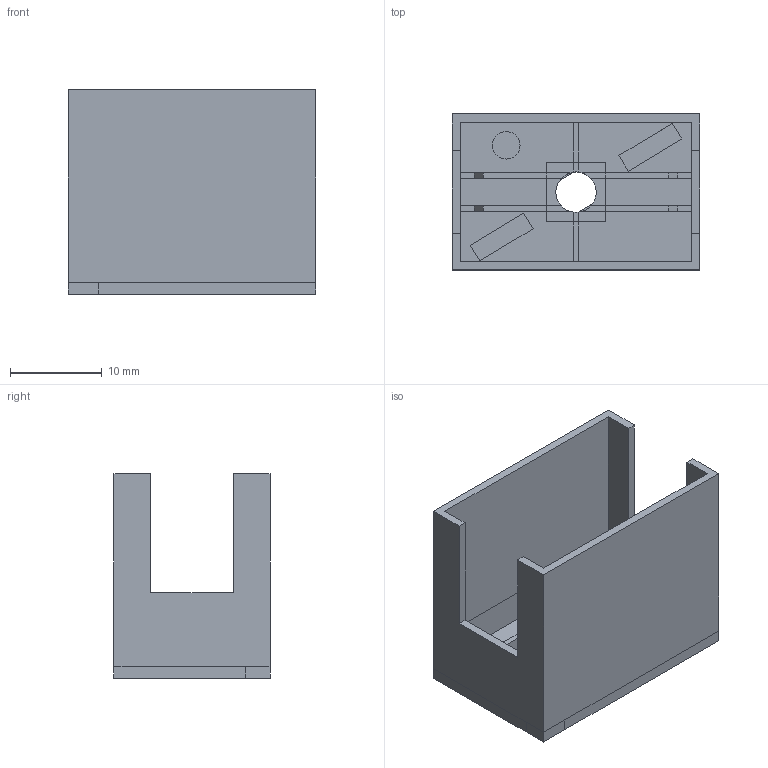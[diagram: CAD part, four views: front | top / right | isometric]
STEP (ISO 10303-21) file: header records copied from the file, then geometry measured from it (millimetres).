
FILE_DESCRIPTION(('FreeCAD Model'),'2;1');
FILE_NAME('Open CASCADE Shape Model','2025-03-10T19:23:31',(''),(''), 'Open CASCADE STEP processor 7.8','FreeCAD','Unknown');
FILE_SCHEMA(('AUTOMOTIVE_DESIGN { 1 0 10303 214 1 1 1 1 }'));
Length unit declared in the file: millimetre
Products named in the file (8): Diagonal_mit_Signal_rechts; Body; Fahrstrasse_1; Fahrstrasse_2; Fahrstrasse_Signal; Ausleuchtung_2; Ausleuchtung_1; Ausleuchtung_Signal
Assembly tree (7 placements, depth 2):
  Diagonal_mit_Signal_rechts
    Body
    Fahrstrasse_1
    Fahrstrasse_2
    Fahrstrasse_Signal
    Ausleuchtung_2
    Ausleuchtung_1
    Ausleuchtung_Signal
Bounding box: 27 x 17 x 22.3 mm (x, y, z)
Volume: 2383.6 mm3; surface area: 4958.6 mm2
Topology: 7 solids, 7 shells, 171 faces, 426 edges, 268 vertices
Faces by surface type: plane 159, cylinder 12
Full cylindrical faces by diameter (mm): 3 x3, 4.4 x1
Entity records: 5183 total; most frequent: CARTESIAN_POINT 873, ORIENTED_EDGE 852, DIRECTION 826, EDGE_CURVE 426, LINE 384, VECTOR 384, VERTEX_POINT 268, AXIS2_PLACEMENT_3D 221
